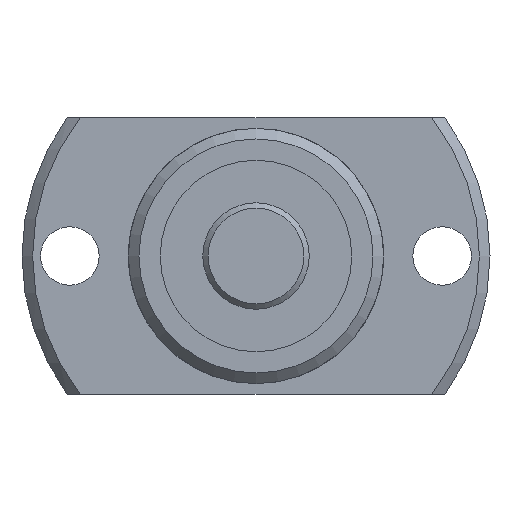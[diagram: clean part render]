
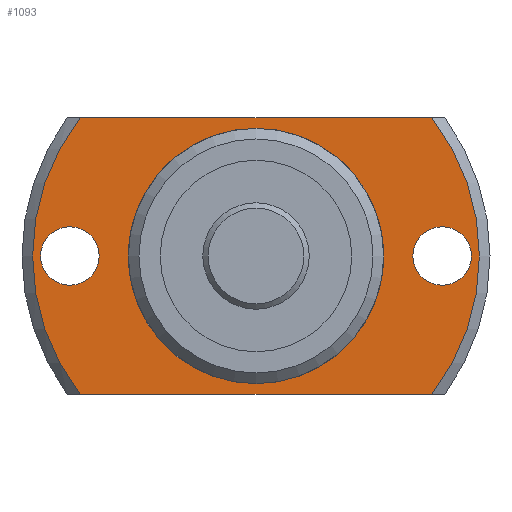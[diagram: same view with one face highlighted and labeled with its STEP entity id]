
A CAD part, left-side view. The second image highlights one B-rep face of the part: STEP entity #1093.
In plain terms, the highlighted planar face has unit normal (-1, 0, 0).
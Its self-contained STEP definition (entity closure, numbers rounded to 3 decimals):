
#110=CIRCLE('',#1212,11.75);
#113=CIRCLE('',#1216,21.);
#119=CIRCLE('',#1227,2.75);
#120=CIRCLE('',#1228,2.75);
#121=CIRCLE('',#1229,21.);
#249=ORIENTED_EDGE('',*,*,#509,.T.);
#250=ORIENTED_EDGE('',*,*,#510,.T.);
#251=ORIENTED_EDGE('',*,*,#498,.F.);
#252=ORIENTED_EDGE('',*,*,#511,.T.);
#253=ORIENTED_EDGE('',*,*,#512,.F.);
#254=ORIENTED_EDGE('',*,*,#513,.T.);
#255=ORIENTED_EDGE('',*,*,#492,.T.);
#492=EDGE_CURVE('',#631,#631,#110,.T.);
#498=EDGE_CURVE('',#636,#637,#113,.T.);
#509=EDGE_CURVE('',#646,#646,#119,.T.);
#510=EDGE_CURVE('',#647,#647,#120,.T.);
#511=EDGE_CURVE('',#636,#648,#721,.T.);
#512=EDGE_CURVE('',#649,#648,#121,.T.);
#513=EDGE_CURVE('',#649,#637,#722,.T.);
#631=VERTEX_POINT('',#1776);
#636=VERTEX_POINT('',#1790);
#637=VERTEX_POINT('',#1792);
#646=VERTEX_POINT('',#1826);
#647=VERTEX_POINT('',#1828);
#648=VERTEX_POINT('',#1830);
#649=VERTEX_POINT('',#1832);
#721=LINE('',#1829,#781);
#722=LINE('',#1833,#782);
#781=VECTOR('',#1464,1000.);
#782=VECTOR('',#1467,1000.);
#861=EDGE_LOOP('',(#249));
#862=EDGE_LOOP('',(#250));
#863=EDGE_LOOP('',(#251,#252,#253,#254));
#864=EDGE_LOOP('',(#255));
#967=FACE_BOUND('',#861,.T.);
#968=FACE_BOUND('',#862,.T.);
#969=FACE_BOUND('',#863,.T.);
#970=FACE_BOUND('',#864,.T.);
#1041=PLANE('',#1226);
#1093=ADVANCED_FACE('',(#967,#968,#969,#970),#1041,.F.);
#1212=AXIS2_PLACEMENT_3D('',#1775,#1426,#1427);
#1216=AXIS2_PLACEMENT_3D('',#1791,#1436,#1437);
#1226=AXIS2_PLACEMENT_3D('',#1824,#1458,#1459);
#1227=AXIS2_PLACEMENT_3D('',#1825,#1460,#1461);
#1228=AXIS2_PLACEMENT_3D('',#1827,#1462,#1463);
#1229=AXIS2_PLACEMENT_3D('',#1831,#1465,#1466);
#1426=DIRECTION('',(1.,0.,0.));
#1427=DIRECTION('',(0.,0.,-1.));
#1436=DIRECTION('',(1.,0.,0.));
#1437=DIRECTION('',(0.,0.,-1.));
#1458=DIRECTION('',(1.,0.,0.));
#1459=DIRECTION('',(0.,0.,-1.));
#1460=DIRECTION('',(1.,0.,0.));
#1461=DIRECTION('',(0.,0.,-1.));
#1462=DIRECTION('',(1.,0.,0.));
#1463=DIRECTION('',(0.,0.,-1.));
#1464=DIRECTION('',(0.,-1.,0.));
#1465=DIRECTION('',(1.,0.,0.));
#1466=DIRECTION('',(0.,0.,-1.));
#1467=DIRECTION('',(0.,1.,0.));
#1775=CARTESIAN_POINT('',(28.,0.,0.));
#1776=CARTESIAN_POINT('',(28.,0.,-11.75));
#1790=CARTESIAN_POINT('',(28.,16.492,-13.));
#1791=CARTESIAN_POINT('',(28.,0.,0.));
#1792=CARTESIAN_POINT('',(28.,16.492,13.));
#1824=CARTESIAN_POINT('',(28.,11.75,0.));
#1825=CARTESIAN_POINT('',(28.,-17.5,0.));
#1826=CARTESIAN_POINT('',(28.,-17.5,-2.75));
#1827=CARTESIAN_POINT('',(28.,17.5,0.));
#1828=CARTESIAN_POINT('',(28.,17.5,-2.75));
#1829=CARTESIAN_POINT('',(28.,11.75,-13.));
#1830=CARTESIAN_POINT('',(28.,-16.492,-13.));
#1831=CARTESIAN_POINT('',(28.,0.,0.));
#1832=CARTESIAN_POINT('',(28.,-16.492,13.));
#1833=CARTESIAN_POINT('',(28.,11.75,13.));
